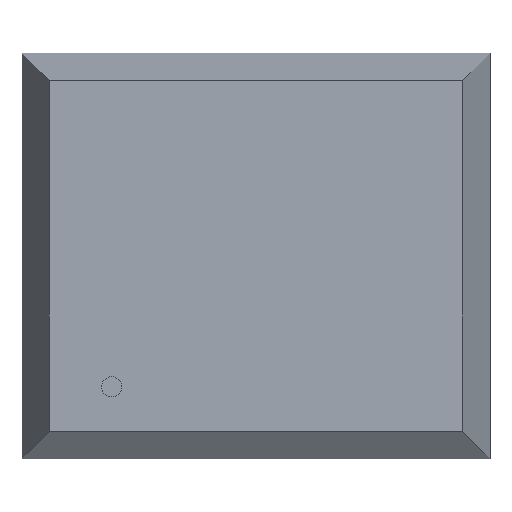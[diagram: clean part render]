
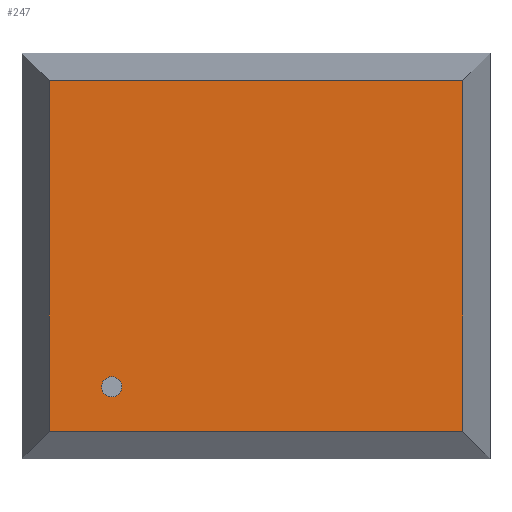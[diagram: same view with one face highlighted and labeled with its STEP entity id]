
A CAD part, top view. The second image highlights one B-rep face of the part: STEP entity #247.
In plain terms, the highlighted planar face has unit normal (0, 0, 1).
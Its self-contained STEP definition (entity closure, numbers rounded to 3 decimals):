
#247=ADVANCED_FACE('',(#253),#248,.T.);
#248=PLANE('',#249);
#249=AXIS2_PLACEMENT_3D('',#250,#251,#252);
#250=CARTESIAN_POINT('',(-1.346,-1.143,1.219));
#251=DIRECTION('',(0.0,0.0,1.0));
#252=DIRECTION('',(0.,1.,0.));
#253=FACE_OUTER_BOUND('',#254,.T.);
#254=EDGE_LOOP('',(#255,#265,#275,#285));
#258=CARTESIAN_POINT('',(1.346,-1.143,1.219));
#257=VERTEX_POINT('',#258);
#260=CARTESIAN_POINT('',(-1.346,-1.143,1.219));
#259=VERTEX_POINT('',#260);
#256=EDGE_CURVE('',#257,#259,#261,.T.);
#261=LINE('',#258,#263);
#263=VECTOR('',#264,2.692);
#264=DIRECTION('',(-1.0,0.0,0.0));
#255=ORIENTED_EDGE('',*,*,#256,.F.);
#268=CARTESIAN_POINT('',(1.346,1.143,1.219));
#267=VERTEX_POINT('',#268);
#266=EDGE_CURVE('',#267,#257,#271,.T.);
#271=LINE('',#268,#273);
#273=VECTOR('',#274,2.286);
#274=DIRECTION('',(0.0,-1.0,0.0));
#265=ORIENTED_EDGE('',*,*,#266,.F.);
#278=CARTESIAN_POINT('',(-1.346,1.143,1.219));
#277=VERTEX_POINT('',#278);
#276=EDGE_CURVE('',#277,#267,#281,.T.);
#281=LINE('',#278,#283);
#283=VECTOR('',#284,2.692);
#284=DIRECTION('',(1.0,0.0,0.0));
#275=ORIENTED_EDGE('',*,*,#276,.F.);
#286=EDGE_CURVE('',#259,#277,#291,.T.);
#291=LINE('',#260,#293);
#293=VECTOR('',#294,2.286);
#294=DIRECTION('',(0.0,1.0,0.0));
#285=ORIENTED_EDGE('',*,*,#286,.F.);
